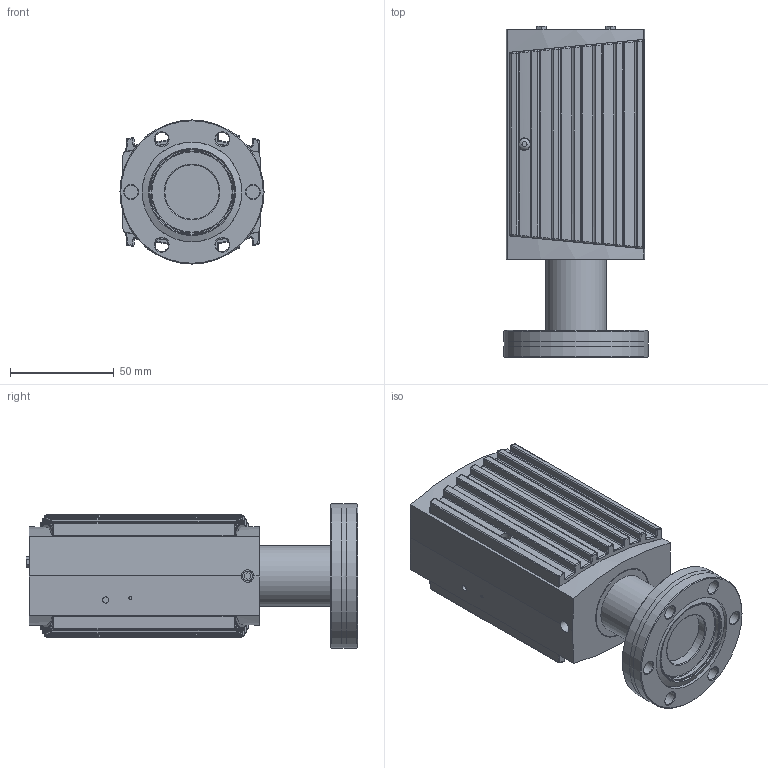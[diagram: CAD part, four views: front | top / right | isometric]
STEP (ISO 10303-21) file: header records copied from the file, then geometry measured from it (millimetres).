
FILE_DESCRIPTION((''),'2;1');
FILE_NAME('W:\ITR200\353-571.stp','2008-10-21T13:22:32',('gelh'),(''),'Autodesk Inventor 2009','Autodesk Inventor 2009','');
FILE_SCHEMA(('AUTOMOTIVE_DESIGN { 1 0 10303 214 1 1 1 1 }'));
Length unit declared in the file: millimetre
Products named in the file (1): 353-571
Bounding box: 69.5 x 159.7 x 69.5 mm (x, y, z)
Volume: 168239.9 mm3; surface area: 100468.1 mm2
Topology: 4 solids, 4 shells, 774 faces, 1973 edges, 1208 vertices
Faces by surface type: plane 332, cylinder 253, bspline 107, sphere 58, cone 20, torus 4
Full cylindrical faces by diameter (mm): 1.5 x2, 2.3 x4, 2.4 x2, 2.8 x4, 3 x7, 3.2 x7, 4 x1, 4.2 x3, 4.8 x1, 5.6 x2, 6 x3, 6.6 x6, 15 x1, 24.8 x1, 25 x1, 25.6 x1, 26 x1, 26.2 x1, 28.7 x1, 29 x1, 31.95 x2, 32 x1, 39.5 x1, 40 x1, 41 x1, 48.1 x1, 48.2 x1, 69.5 x2
Entity records: 27817 total; most frequent: CARTESIAN_POINT 9362, DIRECTION 3991, ORIENTED_EDGE 3664, EDGE_CURVE 1832, AXIS2_PLACEMENT_3D 1520, VERTEX_POINT 1180, VECTOR 951, LINE 951
